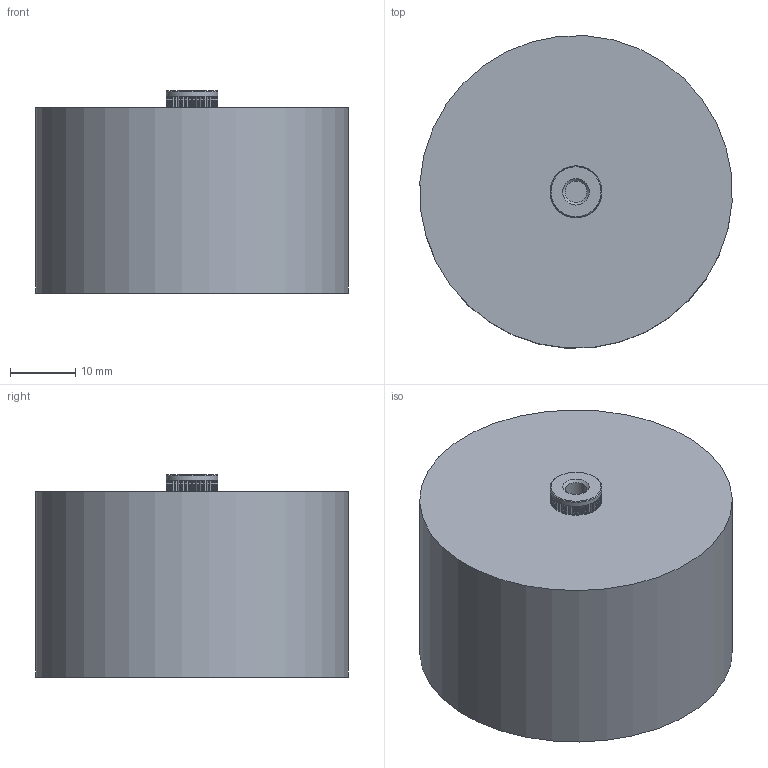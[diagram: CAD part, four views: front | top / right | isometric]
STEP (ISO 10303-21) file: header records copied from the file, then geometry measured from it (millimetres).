
FILE_DESCRIPTION((''),'2;1');
FILE_NAME('I:\Marketing\M6t1\M6T1 - Internal\Drawings\Werk 3\Finished product\Ceramite\Upload for homepage\715\715C###KT###\715C40KTD13.stp','2013-06-10T14:46:30',('sherden'),(''),'Autodesk Inventor 2013','Autodesk Inventor 2013','');
FILE_SCHEMA(('AUTOMOTIVE_DESIGN { 1 2 10303 214 0 1 1 1 }'));
Length unit declared in the file: millimetre
Products named in the file (1): 715C40KTD13
Bounding box: 47.9 x 47.9 x 31 mm (x, y, z)
Volume: 51531.3 mm3; surface area: 8263.4 mm2
Topology: 1 solids, 41 shells, 573 faces, 1419 edges, 932 vertices
Faces by surface type: plane 486, cylinder 84, cone 3
Full cylindrical faces by diameter (mm): 3.302 x2, 7.95 x1, 48 x1
Entity records: 17304 total; most frequent: CARTESIAN_POINT 2916, ORIENTED_EDGE 2822, DIRECTION 2810, EDGE_CURVE 1411, VECTOR 1160, LINE 1160, VERTEX_POINT 931, AXIS2_PLACEMENT_3D 825
